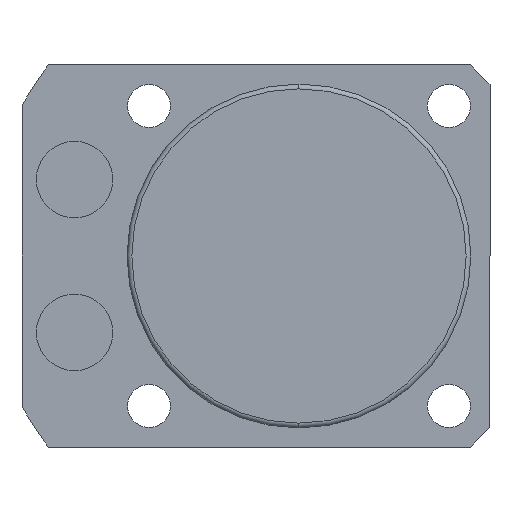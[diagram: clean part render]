
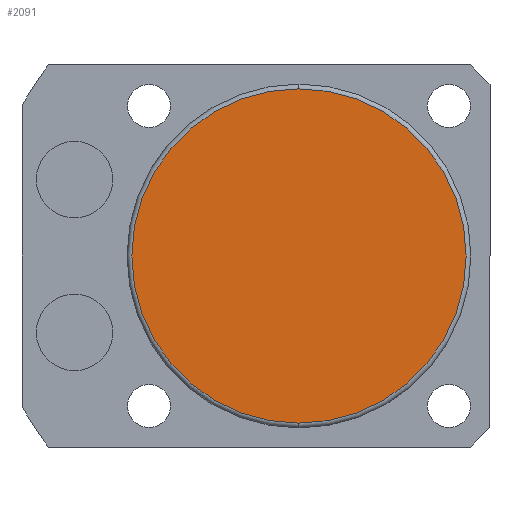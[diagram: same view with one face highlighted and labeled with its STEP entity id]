
A CAD part, front view. The second image highlights one B-rep face of the part: STEP entity #2091.
In plain terms, the highlighted planar face has unit normal (0, -1, 0).
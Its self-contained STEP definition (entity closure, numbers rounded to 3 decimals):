
#61 = AXIS2_PLACEMENT_3D ( 'NONE', #73, #462, #636 ) ;
#73 = CARTESIAN_POINT ( 'NONE',  ( 0., -95.5, 0. ) ) ;
#247 = FACE_OUTER_BOUND ( 'NONE', #1836, .T. ) ;
#424 = CIRCLE ( 'NONE', #2333, 17.5 ) ;
#462 = DIRECTION ( 'NONE',  ( 0., -1., 0. ) ) ;
#516 = VERTEX_POINT ( 'NONE', #799 ) ;
#529 = ORIENTED_EDGE ( 'NONE', *, *, #887, .T. ) ;
#530 = CIRCLE ( 'NONE', #61, 17.5 ) ;
#636 = DIRECTION ( 'NONE',  ( 0., 0., -1. ) ) ;
#799 = CARTESIAN_POINT ( 'NONE',  ( 0., -95.5, -17.5 ) ) ;
#831 = DIRECTION ( 'NONE',  ( 0., -1., 0. ) ) ;
#869 = DIRECTION ( 'NONE',  ( 0., -1., 0. ) ) ;
#887 = EDGE_CURVE ( 'NONE', #2044, #516, #424, .T. ) ;
#1146 = AXIS2_PLACEMENT_3D ( 'NONE', #1895, #831, #1531 ) ;
#1272 = EDGE_CURVE ( 'NONE', #516, #2044, #530, .T. ) ;
#1405 = CARTESIAN_POINT ( 'NONE',  ( 0., -95.5, 0. ) ) ;
#1531 = DIRECTION ( 'NONE',  ( 0., 0., -1. ) ) ;
#1587 = DIRECTION ( 'NONE',  ( 0., 0., -1. ) ) ;
#1836 = EDGE_LOOP ( 'NONE', ( #2076, #529 ) ) ;
#1895 = CARTESIAN_POINT ( 'NONE',  ( 0., -95.5, 0. ) ) ;
#2044 = VERTEX_POINT ( 'NONE', #2054 ) ;
#2054 = CARTESIAN_POINT ( 'NONE',  ( 0., -95.5, 17.5 ) ) ;
#2076 = ORIENTED_EDGE ( 'NONE', *, *, #1272, .T. ) ;
#2091 = ADVANCED_FACE ( 'NONE', ( #247 ), #2100, .T. ) ;
#2100 = PLANE ( 'NONE',  #1146 ) ;
#2333 = AXIS2_PLACEMENT_3D ( 'NONE', #1405, #869, #1587 ) ;
